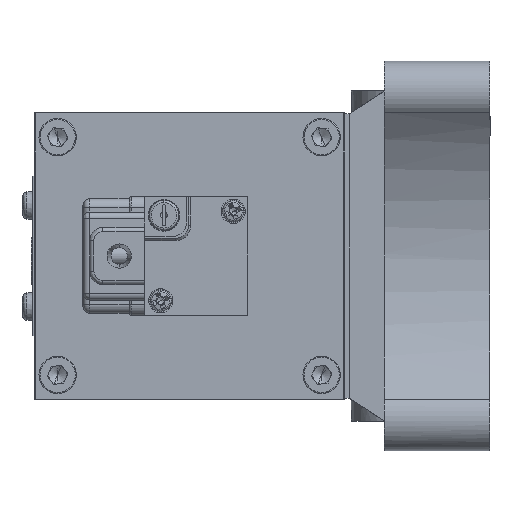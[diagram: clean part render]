
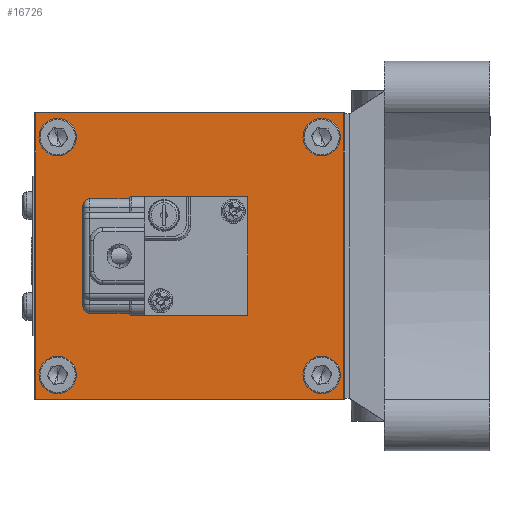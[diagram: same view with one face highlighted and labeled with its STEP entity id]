
A CAD part, left-side view. The second image highlights one B-rep face of the part: STEP entity #16726.
In plain terms, the highlighted planar face has unit normal (-1, 0, 0) as drawn and (0, 0, -1) by its records, which use the part's own axes.
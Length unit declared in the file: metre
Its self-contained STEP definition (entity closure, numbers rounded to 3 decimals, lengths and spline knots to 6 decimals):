
#120 = DIRECTION ( 'NONE',  ( 0., -1., 0. ) ) ;
#233 = CARTESIAN_POINT ( 'NONE',  ( 0.027, 0.00625, 0. ) ) ;
#669 = DIRECTION ( 'NONE',  ( 1., 0., 0. ) ) ;
#782 = CARTESIAN_POINT ( 'NONE',  ( 0.0245, 0.00625, 0. ) ) ;
#1209 = EDGE_CURVE ( 'NONE', #12044, #11103, #6824, .T. ) ;
#1262 = ORIENTED_EDGE ( 'NONE', *, *, #1488, .F. ) ;
#1488 = EDGE_CURVE ( 'NONE', #15762, #15502, #7589, .T. ) ;
#1848 = ORIENTED_EDGE ( 'NONE', *, *, #16580, .F. ) ;
#1874 = DIRECTION ( 'NONE',  ( 1., 0., 0. ) ) ;
#2103 = DIRECTION ( 'NONE',  ( 0., 0., -1. ) ) ;
#2164 = LINE ( 'NONE', #3380, #14560 ) ;
#2397 = EDGE_LOOP ( 'NONE', ( #10272, #8654 ) ) ;
#2424 = ORIENTED_EDGE ( 'NONE', *, *, #13286, .F. ) ;
#2588 = DIRECTION ( 'NONE',  ( 0., 0., -1. ) ) ;
#2595 = LINE ( 'NONE', #18018, #18779 ) ;
#2704 = EDGE_LOOP ( 'NONE', ( #1848, #15848, #2424, #8492 ) ) ;
#3380 = CARTESIAN_POINT ( 'NONE',  ( 0.0325, 0.03625, 0. ) ) ;
#3430 = CARTESIAN_POINT ( 'NONE',  ( -0.0245, 0.06625, 0. ) ) ;
#3658 = CARTESIAN_POINT ( 'NONE',  ( -0.027, 0.06625, 0. ) ) ;
#3722 = VERTEX_POINT ( 'NONE', #8558 ) ;
#3743 = CARTESIAN_POINT ( 'NONE',  ( 0.0325, 0.07125, 0. ) ) ;
#3834 = FACE_BOUND ( 'NONE', #8952, .T. ) ;
#4279 = ORIENTED_EDGE ( 'NONE', *, *, #18627, .F. ) ;
#4439 = EDGE_CURVE ( 'NONE', #5937, #20814, #20166, .T. ) ;
#4828 = FACE_OUTER_BOUND ( 'NONE', #2704, .T. ) ;
#5252 = ORIENTED_EDGE ( 'NONE', *, *, #13382, .F. ) ;
#5260 = DIRECTION ( 'NONE',  ( 1., 0., 0. ) ) ;
#5430 = CIRCLE ( 'NONE', #12483, 0.0025 ) ;
#5582 = AXIS2_PLACEMENT_3D ( 'NONE', #5762, #5787, #5833 ) ;
#5657 = CIRCLE ( 'NONE', #8688, 0.0025 ) ;
#5762 = CARTESIAN_POINT ( 'NONE',  ( -0.027, 0.00625, 0. ) ) ;
#5763 = CIRCLE ( 'NONE', #8079, 0.0025 ) ;
#5787 = DIRECTION ( 'NONE',  ( 0., 0., -1. ) ) ;
#5833 = DIRECTION ( 'NONE',  ( 1., 0., 0. ) ) ;
#5924 = DIRECTION ( 'NONE',  ( -1., 0., 0. ) ) ;
#5937 = VERTEX_POINT ( 'NONE', #3743 ) ;
#6258 = AXIS2_PLACEMENT_3D ( 'NONE', #12998, #13071, #13048 ) ;
#6473 = CIRCLE ( 'NONE', #7268, 0.0025 ) ;
#6824 = CIRCLE ( 'NONE', #5582, 0.0025 ) ;
#6858 = VERTEX_POINT ( 'NONE', #782 ) ;
#7025 = PLANE ( 'NONE',  #18225 ) ;
#7138 = DIRECTION ( 'NONE',  ( 0., 0., -1. ) ) ;
#7268 = AXIS2_PLACEMENT_3D ( 'NONE', #233, #11536, #1874 ) ;
#7557 = CARTESIAN_POINT ( 'NONE',  ( 0., 0.07125, 0. ) ) ;
#7589 = CIRCLE ( 'NONE', #6258, 0.0025 ) ;
#7668 = CARTESIAN_POINT ( 'NONE',  ( -0.0295, 0.00625, 0. ) ) ;
#8001 = CARTESIAN_POINT ( 'NONE',  ( 0.027, 0.00625, 0. ) ) ;
#8079 = AXIS2_PLACEMENT_3D ( 'NONE', #11760, #2103, #13419 ) ;
#8492 = ORIENTED_EDGE ( 'NONE', *, *, #11883, .F. ) ;
#8558 = CARTESIAN_POINT ( 'NONE',  ( 0.0295, 0.00625, 0. ) ) ;
#8654 = ORIENTED_EDGE ( 'NONE', *, *, #9272, .F. ) ;
#8688 = AXIS2_PLACEMENT_3D ( 'NONE', #12237, #2588, #13894 ) ;
#8717 = CARTESIAN_POINT ( 'NONE',  ( -0.0325, 0.00125, 0. ) ) ;
#8952 = EDGE_LOOP ( 'NONE', ( #11323, #4279 ) ) ;
#8966 = AXIS2_PLACEMENT_3D ( 'NONE', #8001, #19342, #9633 ) ;
#8972 = ORIENTED_EDGE ( 'NONE', *, *, #20042, .F. ) ;
#9272 = EDGE_CURVE ( 'NONE', #14068, #18998, #5657, .T. ) ;
#9633 = DIRECTION ( 'NONE',  ( 1., 0., 0. ) ) ;
#9780 = CARTESIAN_POINT ( 'NONE',  ( 0.0245, 0.06625, 0. ) ) ;
#9868 = DIRECTION ( 'NONE',  ( 0., 1., 0. ) ) ;
#9887 = EDGE_CURVE ( 'NONE', #6858, #3722, #18582, .T. ) ;
#10272 = ORIENTED_EDGE ( 'NONE', *, *, #19434, .F. ) ;
#10277 = VECTOR ( 'NONE', #10796, 1. ) ;
#10347 = DIRECTION ( 'NONE',  ( 0., 0., 1. ) ) ;
#10592 = CIRCLE ( 'NONE', #14716, 0.0025 ) ;
#10796 = DIRECTION ( 'NONE',  ( 1., 0., 0. ) ) ;
#11103 = VERTEX_POINT ( 'NONE', #7668 ) ;
#11323 = ORIENTED_EDGE ( 'NONE', *, *, #1209, .F. ) ;
#11481 = CARTESIAN_POINT ( 'NONE',  ( 0.0325, 0.00125, 0. ) ) ;
#11536 = DIRECTION ( 'NONE',  ( 0., 0., -1. ) ) ;
#11760 = CARTESIAN_POINT ( 'NONE',  ( 0.027, 0.06625, 0. ) ) ;
#11883 = EDGE_CURVE ( 'NONE', #20780, #19353, #18921, .T. ) ;
#12044 = VERTEX_POINT ( 'NONE', #16487 ) ;
#12237 = CARTESIAN_POINT ( 'NONE',  ( 0.027, 0.06625, 0. ) ) ;
#12426 = FACE_BOUND ( 'NONE', #17502, .T. ) ;
#12431 = CARTESIAN_POINT ( 'NONE',  ( 0., 0.00125, 0. ) ) ;
#12483 = AXIS2_PLACEMENT_3D ( 'NONE', #3658, #14971, #5260 ) ;
#12998 = CARTESIAN_POINT ( 'NONE',  ( -0.027, 0.06625, 0. ) ) ;
#13009 = CARTESIAN_POINT ( 'NONE',  ( -0.0325, 0.00125, 0. ) ) ;
#13048 = DIRECTION ( 'NONE',  ( 1., 0., 0. ) ) ;
#13071 = DIRECTION ( 'NONE',  ( 0., 0., -1. ) ) ;
#13286 = EDGE_CURVE ( 'NONE', #19353, #5937, #2164, .T. ) ;
#13382 = EDGE_CURVE ( 'NONE', #15502, #15762, #5430, .T. ) ;
#13419 = DIRECTION ( 'NONE',  ( 1., 0., 0. ) ) ;
#13894 = DIRECTION ( 'NONE',  ( 1., 0., 0. ) ) ;
#14068 = VERTEX_POINT ( 'NONE', #9780 ) ;
#14560 = VECTOR ( 'NONE', #9868, 1. ) ;
#14716 = AXIS2_PLACEMENT_3D ( 'NONE', #16848, #7138, #18480 ) ;
#14839 = CARTESIAN_POINT ( 'NONE',  ( -0.0325, 0.07125, 0. ) ) ;
#14949 = ORIENTED_EDGE ( 'NONE', *, *, #9887, .F. ) ;
#14971 = DIRECTION ( 'NONE',  ( 0., 0., -1. ) ) ;
#15299 = CARTESIAN_POINT ( 'NONE',  ( -0.0295, 0.06625, 0. ) ) ;
#15502 = VERTEX_POINT ( 'NONE', #3430 ) ;
#15762 = VERTEX_POINT ( 'NONE', #15299 ) ;
#15848 = ORIENTED_EDGE ( 'NONE', *, *, #4439, .F. ) ;
#15869 = VECTOR ( 'NONE', #5924, 1. ) ;
#16280 = CARTESIAN_POINT ( 'NONE',  ( 0.0295, 0.06625, 0. ) ) ;
#16487 = CARTESIAN_POINT ( 'NONE',  ( -0.0245, 0.00625, 0. ) ) ;
#16580 = EDGE_CURVE ( 'NONE', #20814, #20780, #2595, .T. ) ;
#16726 = ADVANCED_FACE ( 'NONE', ( #12426, #17255, #3834, #16751, #4828 ), #7025, .F. ) ;
#16751 = FACE_BOUND ( 'NONE', #17079, .T. ) ;
#16848 = CARTESIAN_POINT ( 'NONE',  ( -0.027, 0.00625, 0. ) ) ;
#17079 = EDGE_LOOP ( 'NONE', ( #8972, #14949 ) ) ;
#17255 = FACE_BOUND ( 'NONE', #2397, .T. ) ;
#17502 = EDGE_LOOP ( 'NONE', ( #5252, #1262 ) ) ;
#18018 = CARTESIAN_POINT ( 'NONE',  ( -0.0325, 0.03625, 0. ) ) ;
#18225 = AXIS2_PLACEMENT_3D ( 'NONE', #8717, #10347, #669 ) ;
#18480 = DIRECTION ( 'NONE',  ( 1., 0., 0. ) ) ;
#18582 = CIRCLE ( 'NONE', #8966, 0.0025 ) ;
#18627 = EDGE_CURVE ( 'NONE', #11103, #12044, #10592, .T. ) ;
#18779 = VECTOR ( 'NONE', #120, 1. ) ;
#18921 = LINE ( 'NONE', #12431, #10277 ) ;
#18998 = VERTEX_POINT ( 'NONE', #16280 ) ;
#19342 = DIRECTION ( 'NONE',  ( 0., 0., -1. ) ) ;
#19353 = VERTEX_POINT ( 'NONE', #11481 ) ;
#19434 = EDGE_CURVE ( 'NONE', #18998, #14068, #5763, .T. ) ;
#20042 = EDGE_CURVE ( 'NONE', #3722, #6858, #6473, .T. ) ;
#20166 = LINE ( 'NONE', #7557, #15869 ) ;
#20780 = VERTEX_POINT ( 'NONE', #13009 ) ;
#20814 = VERTEX_POINT ( 'NONE', #14839 ) ;
